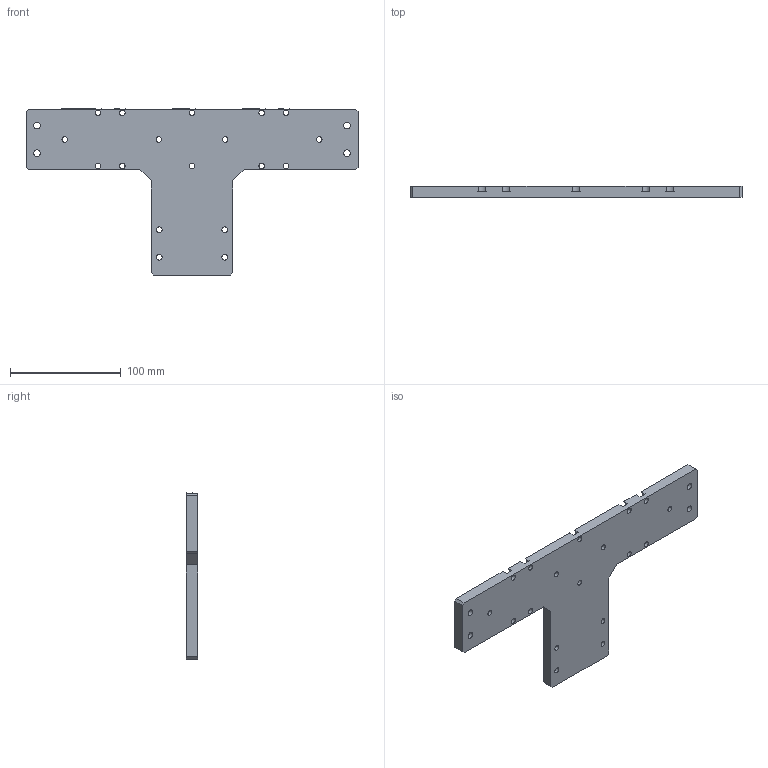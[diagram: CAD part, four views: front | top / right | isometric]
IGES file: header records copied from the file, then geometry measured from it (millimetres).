
Start section:  PTC IGES file: k46-k60l-ft.igs
Global section: file name: k46-k60l-ft.igs; native system: Pro/ENGINEER by Parametric Technology Corporation; preprocessor: 2008230; author: Owner; organization: Unknown; date: 20121212.103337; units: millimetre
Bounding box: 300 x 10 x 150 mm (x, y, z)
Surface area: 59480.7 mm2 (no closed solid volume)
Topology: 0 solids, 0 shells, 107 faces, 576 edges, 576 vertices
Faces by surface type: revolution 71, bspline 36
